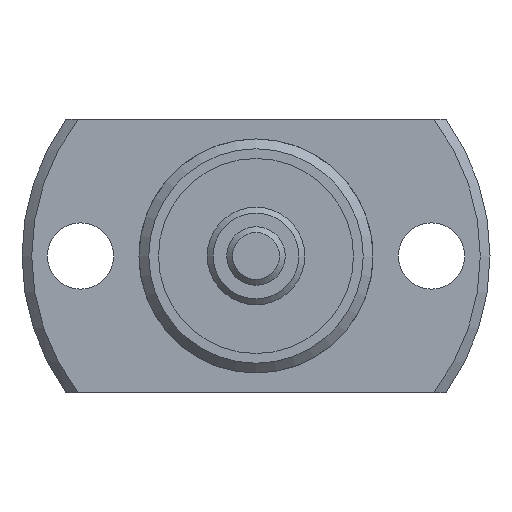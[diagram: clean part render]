
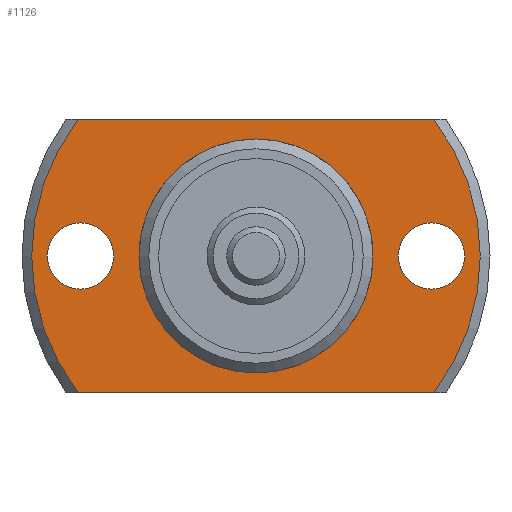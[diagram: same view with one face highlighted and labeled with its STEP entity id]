
A CAD part, left-side view. The second image highlights one B-rep face of the part: STEP entity #1126.
In plain terms, the highlighted planar face has unit normal (-1, 0, 0).
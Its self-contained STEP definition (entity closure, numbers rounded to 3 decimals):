
#115=CIRCLE('',#1251,5.8);
#118=CIRCLE('',#1255,11.5);
#124=CIRCLE('',#1266,1.7);
#125=CIRCLE('',#1267,1.7);
#126=CIRCLE('',#1268,11.5);
#260=ORIENTED_EDGE('',*,*,#523,.T.);
#261=ORIENTED_EDGE('',*,*,#524,.T.);
#262=ORIENTED_EDGE('',*,*,#512,.F.);
#263=ORIENTED_EDGE('',*,*,#525,.T.);
#264=ORIENTED_EDGE('',*,*,#526,.F.);
#265=ORIENTED_EDGE('',*,*,#527,.T.);
#266=ORIENTED_EDGE('',*,*,#506,.T.);
#506=EDGE_CURVE('',#648,#648,#115,.T.);
#512=EDGE_CURVE('',#653,#654,#118,.T.);
#523=EDGE_CURVE('',#663,#663,#124,.T.);
#524=EDGE_CURVE('',#664,#664,#125,.T.);
#525=EDGE_CURVE('',#653,#665,#738,.T.);
#526=EDGE_CURVE('',#666,#665,#126,.T.);
#527=EDGE_CURVE('',#666,#654,#739,.T.);
#648=VERTEX_POINT('',#1834);
#653=VERTEX_POINT('',#1848);
#654=VERTEX_POINT('',#1850);
#663=VERTEX_POINT('',#1884);
#664=VERTEX_POINT('',#1886);
#665=VERTEX_POINT('',#1888);
#666=VERTEX_POINT('',#1890);
#738=LINE('',#1887,#798);
#739=LINE('',#1891,#799);
#798=VECTOR('',#1515,1000.);
#799=VECTOR('',#1518,1000.);
#884=EDGE_LOOP('',(#260));
#885=EDGE_LOOP('',(#261));
#886=EDGE_LOOP('',(#262,#263,#264,#265));
#887=EDGE_LOOP('',(#266));
#996=FACE_BOUND('',#884,.T.);
#997=FACE_BOUND('',#885,.T.);
#998=FACE_BOUND('',#886,.T.);
#999=FACE_BOUND('',#887,.T.);
#1071=PLANE('',#1265);
#1126=ADVANCED_FACE('',(#996,#997,#998,#999),#1071,.F.);
#1251=AXIS2_PLACEMENT_3D('',#1833,#1477,#1478);
#1255=AXIS2_PLACEMENT_3D('',#1849,#1487,#1488);
#1265=AXIS2_PLACEMENT_3D('',#1882,#1509,#1510);
#1266=AXIS2_PLACEMENT_3D('',#1883,#1511,#1512);
#1267=AXIS2_PLACEMENT_3D('',#1885,#1513,#1514);
#1268=AXIS2_PLACEMENT_3D('',#1889,#1516,#1517);
#1477=DIRECTION('',(1.,0.,0.));
#1478=DIRECTION('',(0.,0.,-1.));
#1487=DIRECTION('',(1.,0.,0.));
#1488=DIRECTION('',(0.,0.,-1.));
#1509=DIRECTION('',(1.,0.,0.));
#1510=DIRECTION('',(0.,0.,-1.));
#1511=DIRECTION('',(1.,0.,0.));
#1512=DIRECTION('',(0.,0.,-1.));
#1513=DIRECTION('',(1.,0.,0.));
#1514=DIRECTION('',(0.,0.,-1.));
#1515=DIRECTION('',(0.,-1.,0.));
#1516=DIRECTION('',(1.,0.,0.));
#1517=DIRECTION('',(0.,0.,-1.));
#1518=DIRECTION('',(0.,1.,0.));
#1833=CARTESIAN_POINT('',(18.,0.,0.));
#1834=CARTESIAN_POINT('',(18.,0.,-5.8));
#1848=CARTESIAN_POINT('',(18.,9.124,-7.));
#1849=CARTESIAN_POINT('',(18.,0.,0.));
#1850=CARTESIAN_POINT('',(18.,9.124,7.));
#1882=CARTESIAN_POINT('',(18.,5.8,0.));
#1883=CARTESIAN_POINT('',(18.,-9.,0.));
#1884=CARTESIAN_POINT('',(18.,-9.,-1.7));
#1885=CARTESIAN_POINT('',(18.,9.,0.));
#1886=CARTESIAN_POINT('',(18.,9.,-1.7));
#1887=CARTESIAN_POINT('',(18.,5.8,-7.));
#1888=CARTESIAN_POINT('',(18.,-9.124,-7.));
#1889=CARTESIAN_POINT('',(18.,0.,0.));
#1890=CARTESIAN_POINT('',(18.,-9.124,7.));
#1891=CARTESIAN_POINT('',(18.,5.8,7.));
